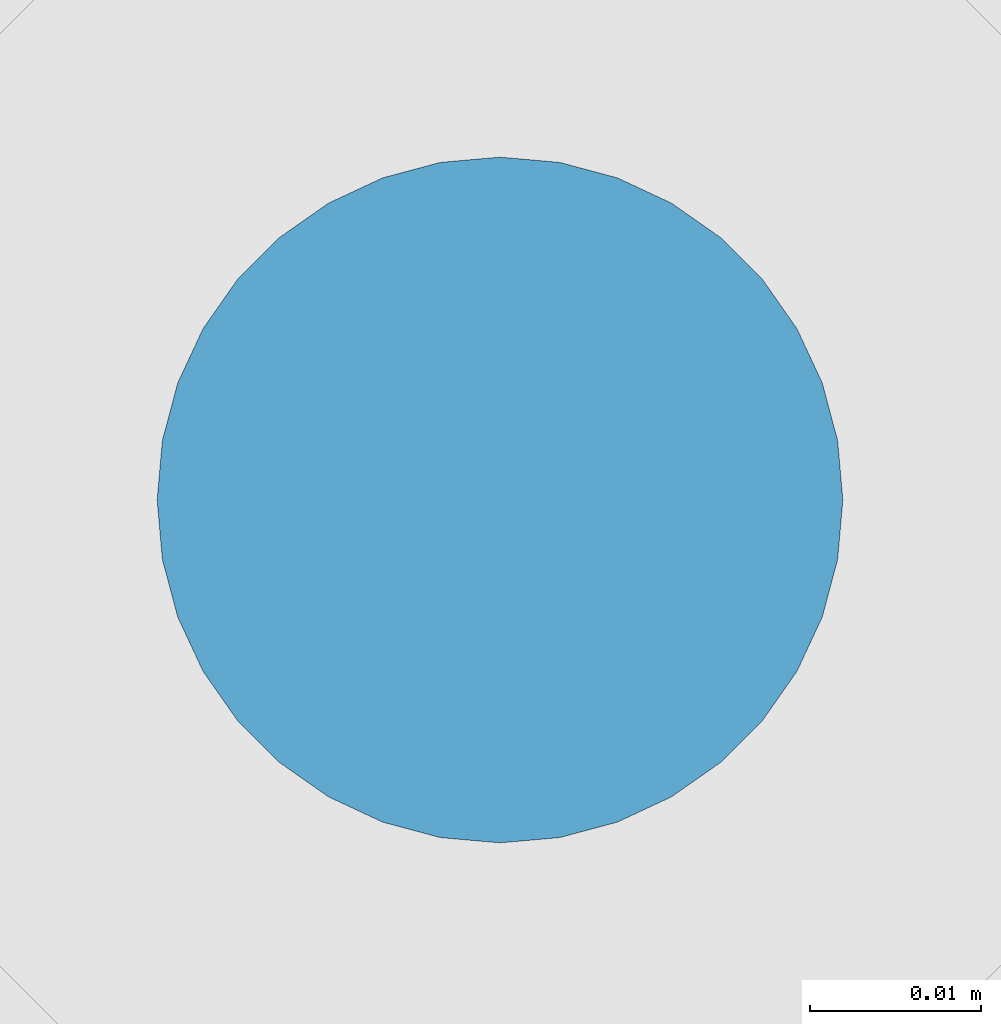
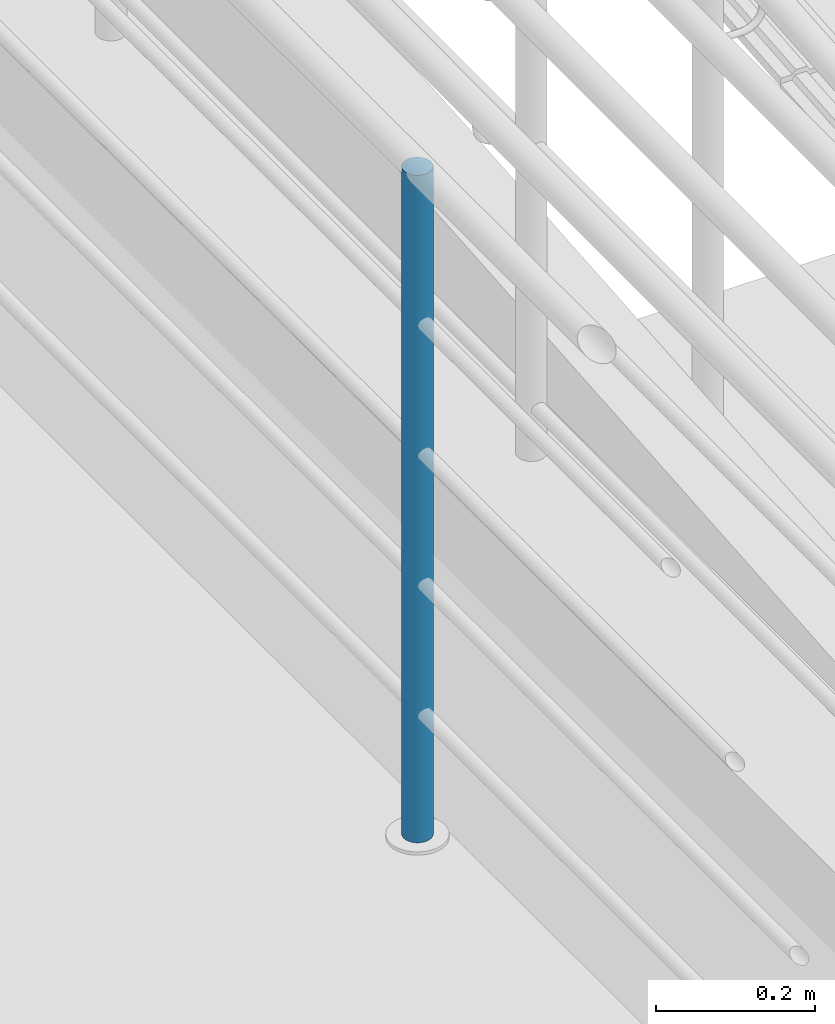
# One storey, part 47 of 237: 1 building element part, 1 element without a shape of its own.
"""IFC2X3 building model written with IfcOpenShell, lengths in millimetres."""

from ifc_helpers import new_model, entity, si_unit, converted_unit, derived_unit, money_unit, direction, frame, origin_with_axes, place, context, subcontext, project, spatial, faceted_brep, material, type_object, element, aggregate, save


model = new_model("IFC2X3")

# Units and contexts
model_context = context("Model", 3, precision=0.01, world=origin_with_axes(), true_north=direction((0.0, 1.0)))
body_context = subcontext(model_context, "Body", "Model", "MODEL_VIEW")
ifc_project = project(units=[si_unit("LENGTHUNIT", "METRE", prefix="MILLI"), si_unit("AREAUNIT", "SQUARE_METRE"), si_unit("VOLUMEUNIT", "CUBIC_METRE"), converted_unit("PLANEANGLEUNIT", "DEGREE", entity("IfcPlaneAngleMeasure", 0.0174532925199), si_unit("PLANEANGLEUNIT", "RADIAN"), dimensions=[0, 0, 0, 0, 0, 0, 0]), money_unit("USD"), converted_unit("TIMEUNIT", "Year", entity("IfcTimeMeasure", 31556926.0), si_unit("TIMEUNIT", "SECOND"), dimensions=[0, 0, 1, 0, 0, 0, 0]), si_unit("MASSUNIT", "GRAM", prefix="KILO"), si_unit("THERMODYNAMICTEMPERATUREUNIT", "DEGREE_CELSIUS"), si_unit("LUMINOUSINTENSITYUNIT", "LUMEN"), si_unit("ENERGYUNIT", "JOULE", prefix="MEGA"), derived_unit("THERMALCONDUCTANCEUNIT", [(si_unit("POWERUNIT", "WATT"), 1), (si_unit("LENGTHUNIT", "METRE"), -1), (si_unit("THERMODYNAMICTEMPERATUREUNIT", "KELVIN"), -1)]), derived_unit("SPECIFICHEATCAPACITYUNIT", [(si_unit("ENERGYUNIT", "JOULE"), 1), (si_unit("MASSUNIT", "GRAM", prefix="KILO"), -1), (si_unit("THERMODYNAMICTEMPERATUREUNIT", "KELVIN"), -1)]), derived_unit("MASSDENSITYUNIT", [(si_unit("MASSUNIT", "GRAM", prefix="KILO"), 1), (si_unit("VOLUMEUNIT", "CUBIC_METRE"), -1)])], contexts=[model_context])

# Site, building, storey
site_placement = place(None, origin_with_axes())
site = spatial("IfcSite", under=ifc_project, at=site_placement, Name="Local", CompositionType="ELEMENT")
building_placement = place(site_placement, origin_with_axes())
building = spatial("IfcBuilding", under=site, at=building_placement, Name="Construção", CompositionType="ELEMENT")
storey_placement = place(building_placement, origin_with_axes())
storey = spatial("IfcBuildingStorey", under=building, at=storey_placement, Name="Pavimento Térreo", CompositionType="ELEMENT", Elevation=0.0)

# Railing, building element part
railing_type = type_object("IfcRailingType", Name="Tipo de Guarda-Corpo", PredefinedType="NOTDEFINED")
railing_placement = place(storey_placement, frame((61612.4440926, 28006.4497128, -1265.99547451), z_axis=(0.0, 0.0, 1.0), x_axis=(-1.0, 0.0, 0.0)))
railing = element("IfcRailing", 1, at=railing_placement, inside=storey, type_object=railing_type, Name="Guarda-Corpo - 001", PredefinedType="NOTDEFINED")
ifc_material = material(Name="Aço - Inoxidável")
building_element_part_placement = place(railing_placement, origin_with_axes())
building_element_part = element("IfcBuildingElementPart", 2, at=building_element_part_placement, material=ifc_material, Name="Aço - Inoxidável", context=body_context, shape_type="Brep", body=[
    faceted_brep([(-2829.69627043, -2383.01072168, 913.887277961), (-2830.00011525, -2386.48368524, 913.887277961), (-2830.00011525, -2386.48368524, 1938.88727796), (-2829.69627043, -2383.01072168, 1938.88727796), (-2829.6962702, -2389.95664878, 913.887277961), (-2828.7939679, -2379.64328233, 913.887277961), (-2827.32062366, -2376.48368515, 913.887277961), (-2825.32100454, -2373.62793289, 913.887277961), (-2822.85586795, -2371.16279614, 913.887277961), (-2820.00011583, -2369.16317684, 913.887277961), (-2816.84051874, -2367.68983239, 913.887277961), (-2813.47307946, -2366.78752964, 913.887277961), (-2810.00011591, -2366.48368458, 913.887277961), (-2806.52715235, -2366.78752941, 913.887277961), (-2803.15971301, -2367.68983194, 913.887277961), (-2800.00011583, -2369.16317618, 913.887277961), (-2797.14436357, -2371.1627953, 913.887277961), (-2794.67922682, -2373.62793188, 913.887277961), (-2792.67960751, -2376.48368401, 913.887277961), (-2791.20626306, -2379.6432811, 913.887277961), (-2790.30396031, -2383.01072038, 913.887277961), (-2790.00011525, -2386.48368392, 913.887277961), (-2790.30396008, -2389.95664749, 913.887277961), (-2791.20626261, -2393.32408683, 913.887277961), (-2792.67960685, -2396.48368401, 913.887277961), (-2794.67922597, -2399.33943627, 913.887277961), (-2797.14436256, -2401.80457302, 913.887277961), (-2800.00011468, -2403.80419233, 913.887277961), (-2803.15971177, -2405.27753677, 913.887277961), (-2806.52715105, -2406.17983953, 913.887277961), (-2810.0001146, -2406.48368458, 913.887277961), (-2813.47307816, -2406.17983976, 913.887277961), (-2816.8405175, -2405.27753722, 913.887277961), (-2820.00011468, -2403.80419299, 913.887277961), (-2822.85586694, -2401.80457387, 913.887277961), (-2825.32100369, -2399.33943728, 913.887277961), (-2827.320623, -2396.48368515, 913.887277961), (-2828.79396745, -2393.32408807, 913.887277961), (-2829.6962702, -2389.95664878, 1938.88727796), (-2806.52715235, -2366.78752941, 1938.88727796), (-2810.00011591, -2366.48368458, 1938.88727796), (-2813.47307946, -2366.78752964, 1938.88727796), (-2816.84051874, -2367.68983239, 1938.88727796), (-2820.00011583, -2369.16317684, 1938.88727796), (-2822.85586795, -2371.16279614, 1938.88727796), (-2825.32100454, -2373.62793289, 1938.88727796), (-2827.32062366, -2376.48368515, 1938.88727796), (-2828.7939679, -2379.64328233, 1938.88727796), (-2828.79396745, -2393.32408807, 1938.88727796), (-2827.320623, -2396.48368515, 1938.88727796), (-2825.32100369, -2399.33943728, 1938.88727796), (-2822.85586694, -2401.80457387, 1938.88727796), (-2820.00011468, -2403.80419299, 1938.88727796), (-2816.8405175, -2405.27753722, 1938.88727796), (-2813.47307816, -2406.17983976, 1938.88727796), (-2810.0001146, -2406.48368458, 1938.88727796), (-2806.52715105, -2406.17983953, 1938.88727796), (-2803.15971177, -2405.27753677, 1938.88727796), (-2800.00011468, -2403.80419233, 1938.88727796), (-2797.14436256, -2401.80457302, 1938.88727796), (-2794.67922597, -2399.33943627, 1938.88727796), (-2792.67960685, -2396.48368401, 1938.88727796), (-2791.20626261, -2393.32408683, 1938.88727796), (-2790.30396008, -2389.95664749, 1938.88727796), (-2790.00011525, -2386.48368392, 1938.88727796), (-2790.30396031, -2383.01072038, 1938.88727796), (-2791.20626306, -2379.6432811, 1938.88727796), (-2792.67960751, -2376.48368401, 1938.88727796), (-2794.67922682, -2373.62793188, 1938.88727796), (-2797.14436357, -2371.1627953, 1938.88727796), (-2800.00011583, -2369.16317618, 1938.88727796), (-2803.15971301, -2367.68983194, 1938.88727796)], [[[0, 1, 2, 3]], [[4, 1, 0, 5, 6, 7, 8, 9, 10, 11, 12, 13, 14, 15, 16, 17, 18, 19, 20, 21, 22, 23, 24, 25, 26, 27, 28, 29, 30, 31, 32, 33, 34, 35, 36, 37]], [[1, 4, 38, 2]], [[39, 40, 41, 42, 43, 44, 45, 46, 47, 3, 2, 38, 48, 49, 50, 51, 52, 53, 54, 55, 56, 57, 58, 59, 60, 61, 62, 63, 64, 65, 66, 67, 68, 69, 70, 71]], [[5, 0, 3, 47]], [[6, 5, 47, 46]], [[7, 6, 46, 45]], [[8, 7, 45, 44]], [[9, 8, 44, 43]], [[10, 9, 43, 42]], [[11, 10, 42, 41]], [[12, 11, 41, 40]], [[13, 12, 40, 39]], [[14, 13, 39, 71]], [[15, 14, 71, 70]], [[16, 15, 70, 69]], [[17, 16, 69, 68]], [[18, 17, 68, 67]], [[19, 18, 67, 66]], [[20, 19, 66, 65]], [[21, 20, 65, 64]], [[22, 21, 64, 63]], [[23, 22, 63, 62]], [[24, 23, 62, 61]], [[25, 24, 61, 60]], [[26, 25, 60, 59]], [[27, 26, 59, 58]], [[28, 27, 58, 57]], [[29, 28, 57, 56]], [[30, 29, 56, 55]], [[31, 30, 55, 54]], [[32, 31, 54, 53]], [[33, 32, 53, 52]], [[34, 33, 52, 51]], [[35, 34, 51, 50]], [[36, 35, 50, 49]], [[37, 36, 49, 48]], [[4, 37, 48, 38]]]),
])
aggregate(railing, [building_element_part])

save(model, "model.ifc")
